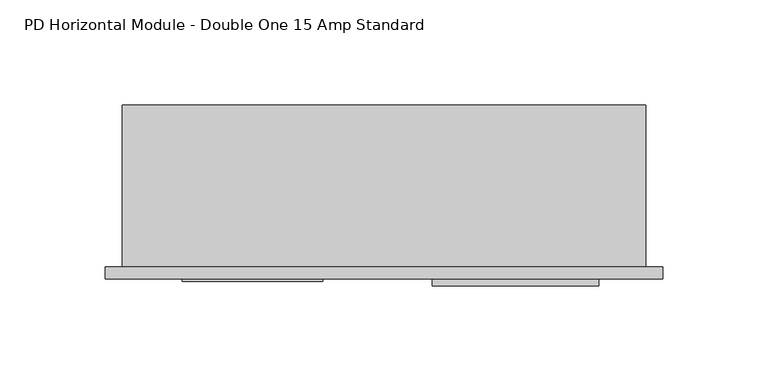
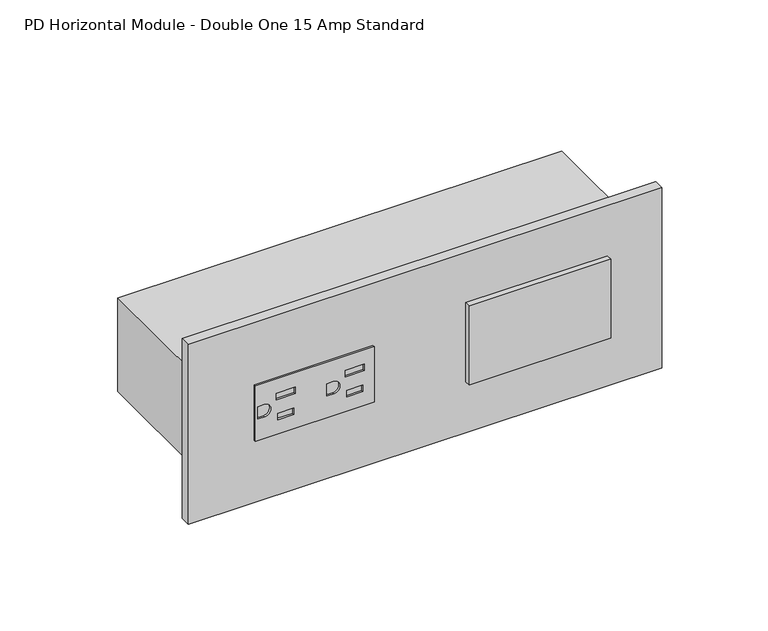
"""IFC4 building model written with IfcOpenShell, lengths in millimetres: proxy geometry, Electrical-Teknion-EPDHD_Horizontal_Power_Data_Double-R2019 : PD Horizontal Module - Double One 15 Amp Standard."""

from ifc_helpers import new_model, si_unit, point, frame, frame_2d, origin, place, context, project, spatial, polyline, circle_curve, trimmed, segment, composite_curve, outline, extrude, source, transform, mapped, element, save


def pd_horizontal_module_double_one_15_amp_standard_91662da0(model_context):
    return source(origin(), model_context, "Body", "SweptSolid", [
        extrude(outline(polyline([(821.6104559, 95.2641659), (854.6103899, 95.2641659), (854.6103899, 28.5842992), (821.6104559, 28.5842992), (821.6104559, 95.2641659)]), holes=[polyline([(842.2804146, 89.8841766), (842.2804146, 79.0241983), (846.1104069, 79.0241983), (846.1104069, 89.8841766), (842.2804146, 89.8841766)]), polyline([(830.1104389, 88.8841786), (830.1104389, 80.0241963), (833.9404313, 80.0241963), (833.9404313, 88.8841786), (830.1104389, 88.8841786)]), composite_curve([segment(polyline([(834.4760157, 68.8642187), (841.7404157, 68.8642187), (841.7404157, 72.4964187)]), True, "CONTINUOUS"), segment(trimmed(circle_curve(frame_2d((838.1082157, 72.4964187)), 3.6322), [point((841.7404157, 72.4964187))], [point((834.4760157, 72.4964187))], True, "CARTESIAN"), True, "CONTINUOUS"), segment(polyline([(834.4760157, 72.4964187), (834.4760157, 68.8642187)]), True, "CONTINUOUS")], self_intersect=False), polyline([(842.2804146, 51.1442541), (842.2804146, 40.2842758), (846.1104069, 40.2842758), (846.1104069, 51.1442541), (842.2804146, 51.1442541)]), polyline([(830.1104389, 50.1442561), (830.1104389, 41.2842738), (833.9404313, 41.2842738), (833.9404313, 50.1442561), (830.1104389, 50.1442561)]), composite_curve([segment(polyline([(834.4760157, 30.1242961), (841.7404157, 30.1242961), (841.7404157, 33.7564961)]), True, "CONTINUOUS"), segment(trimmed(circle_curve(frame_2d((838.1082157, 33.7564961)), 3.6322), [point((841.7404157, 33.7564961))], [point((834.4760157, 33.7564961))], True, "CARTESIAN"), True, "CONTINUOUS"), segment(polyline([(834.4760157, 33.7564961), (834.4760157, 30.1242961)]), True, "CONTINUOUS")], self_intersect=False)]), frame((0.0, -6.9294746, 0.0), z_axis=(0.0, 1.0, 0.0), x_axis=(0.0, 0.0, 1.0)), (0.0, 0.0, 1.0), 1.0366746),
        extrude(outline(polyline([(147.3082675, -5.8928), (226.6832675, -5.8928), (226.6832675, -9.0678), (147.3082675, -9.0678), (147.3082675, -5.8928)])), frame((0.0, 0.0, 814.8854229), z_axis=(0.0, 0.0, 1.0), x_axis=(1.0, 0.0, 0.0)), (0.0, 0.0, 1.0), 46.863),
        extrude(outline(polyline([(-8.2450977, 0.0), (257.1652913, 0.0), (257.1652913, -5.8928), (-8.2450977, -5.8928), (-8.2450977, 0.0)])), frame((0.0, 0.0, 784.6718508), z_axis=(0.0, 0.0, 1.0), x_axis=(1.0, 0.0, 0.0)), (0.0, 0.0, 1.0), 106.8771443),
        extrude(outline(polyline([(248.92, 0.0), (0.0, 0.0), (0.0, 77.054), (248.92, 77.054), (248.92, 0.0)])), frame((0.0, 0.0, 810.3355229), z_axis=(0.0, 0.0, 1.0), x_axis=(1.0, 0.0, 0.0)), (0.0, 0.0, 1.0), 55.5498),
    ])


if __name__ == "__main__":
    model = new_model("IFC4")
    model_context = context("Model", 3, world=origin())
    ifc_project = project(units=[si_unit("LENGTHUNIT", "METRE", prefix="MILLI")], contexts=[model_context])
    site = spatial("IfcSite", under=ifc_project)
    building = spatial("IfcBuilding", under=site)
    placement = place(None, origin())
    pd_horizontal_module_double_one_15_amp_standard_shape = pd_horizontal_module_double_one_15_amp_standard_91662da0(model_context)
    element("IfcBuildingElementProxy", 1, Name="Electrical-Teknion-EPDHD_Horizontal_Power_Data_Double-R2019 : PD Horizontal Module - Double One 15 Amp Standard", ObjectType="Electrical-Teknion-EPDHD_Horizontal_Power_Data_Double-R2019 : PD Horizontal Module - Double One 15 Amp Standard", at=placement, inside=building, context=model_context, shape_type="MappedRepresentation", body=[
        mapped(pd_horizontal_module_double_one_15_amp_standard_shape, transform((0.0, 0.0, 0.0), x_axis=(1.0, 0.0, 0.0), y_axis=(0.0, 1.0, 0.0), z_axis=(0.0, 0.0, 1.0))),
    ])
    save(model, "model.ifc")
